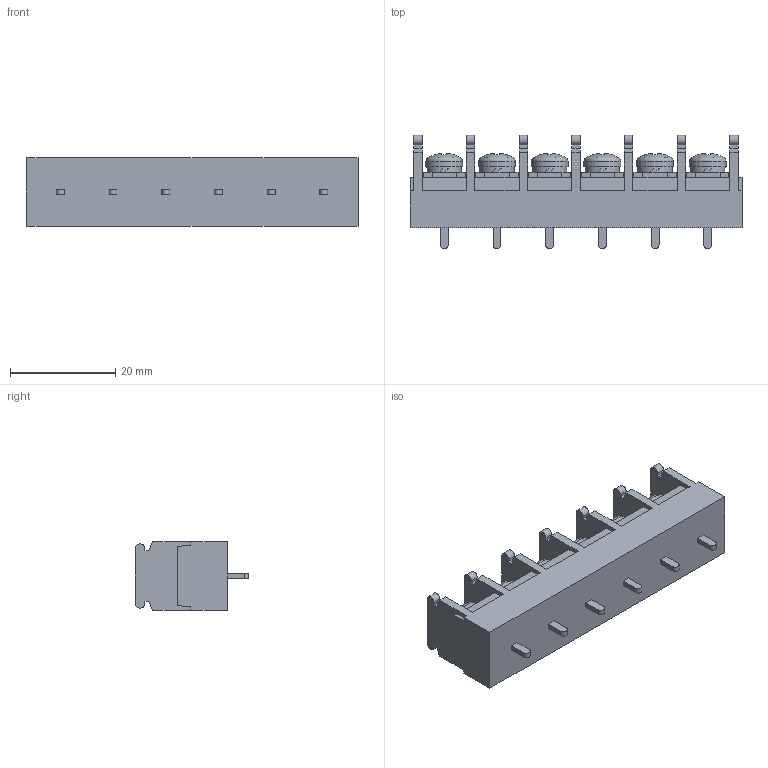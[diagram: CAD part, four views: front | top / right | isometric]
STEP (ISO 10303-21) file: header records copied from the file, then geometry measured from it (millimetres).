
FILE_DESCRIPTION(/* description */ ('Alibre Inc.'),/* implementation_level */ '2;1');
FILE_NAME(/* name */ 'export0',/* time_stamp */ '2015-10-17T19:41:46+09:00',/* author */ (''),/* organization */ (''),/* preprocessor_version */ 'ST-DEVELOPER v14',/* originating_system */ 'Alibre',/* authorisation */ '');
FILE_SCHEMA (('CONFIG_CONTROL_DESIGN'));
Length unit declared in the file: centimetre
Products named in the file (1): ID_1
Bounding box: 63 x 21.5 x 13 mm (x, y, z)
Volume: 9699.6 mm3; surface area: 5580.9 mm2
Topology: 1 solids, 17 shells, 758 faces, 2016 edges, 1342 vertices
Faces by surface type: plane 580, bspline 104, cylinder 38, cone 24, sphere 6, torus 6
Full cylindrical faces by diameter (mm): 6.5 x6, 7 x6
Entity records: 23005 total; most frequent: CARTESIAN_POINT 5237, ORIENTED_EDGE 4008, DIRECTION 2726, EDGE_CURVE 2004, VECTOR 1522, LINE 1522, VERTEX_POINT 1342, AXIS2_PLACEMENT_3D 885
